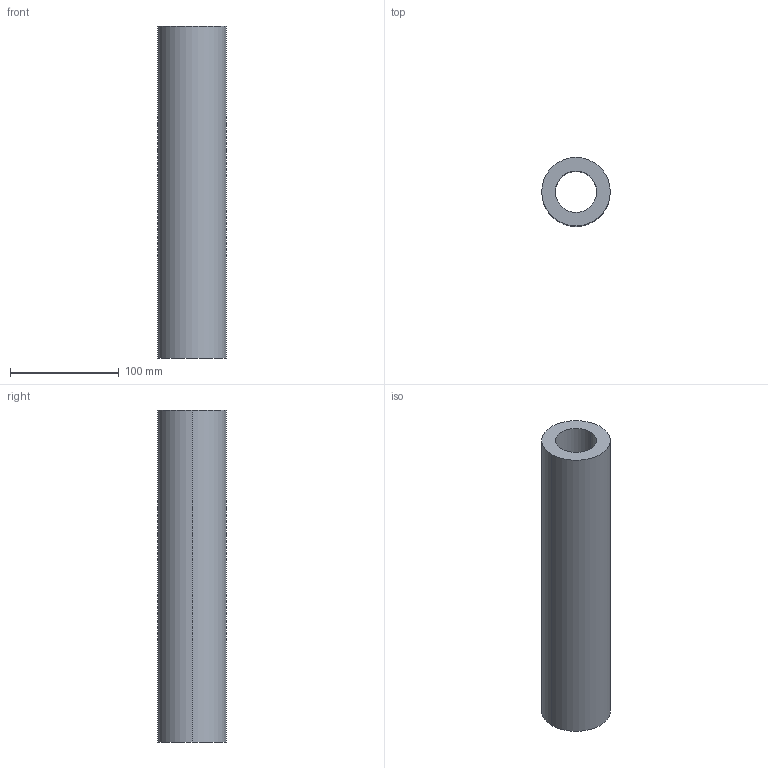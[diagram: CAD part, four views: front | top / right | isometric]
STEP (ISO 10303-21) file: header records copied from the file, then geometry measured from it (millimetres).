
FILE_DESCRIPTION (( 'STEP AP214' ), '1' );
FILE_NAME ('BRA-63X305.STEP', '2020-07-20T12:02:37', ( 'August' ), ( '' ), 'SwSTEP 2.0', 'SolidWorks 2018', '' );
FILE_SCHEMA (( 'AUTOMOTIVE_DESIGN' ));
Length unit declared in the file: millimetre
Products named in the file (1): BRA-63X305
Bounding box: 63 x 63 x 305 mm (x, y, z)
Volume: 604854.8 mm3; surface area: 100743 mm2
Topology: 1 solids, 1 shells, 6 faces, 12 edges, 8 vertices
Faces by surface type: cylinder 4, plane 2
Entity records: 202 total; most frequent: DIRECTION 34, CARTESIAN_POINT 27, ORIENTED_EDGE 24, AXIS2_PLACEMENT_3D 15, EDGE_CURVE 12, EDGE_LOOP 8, VERTEX_POINT 8, CIRCLE 8
